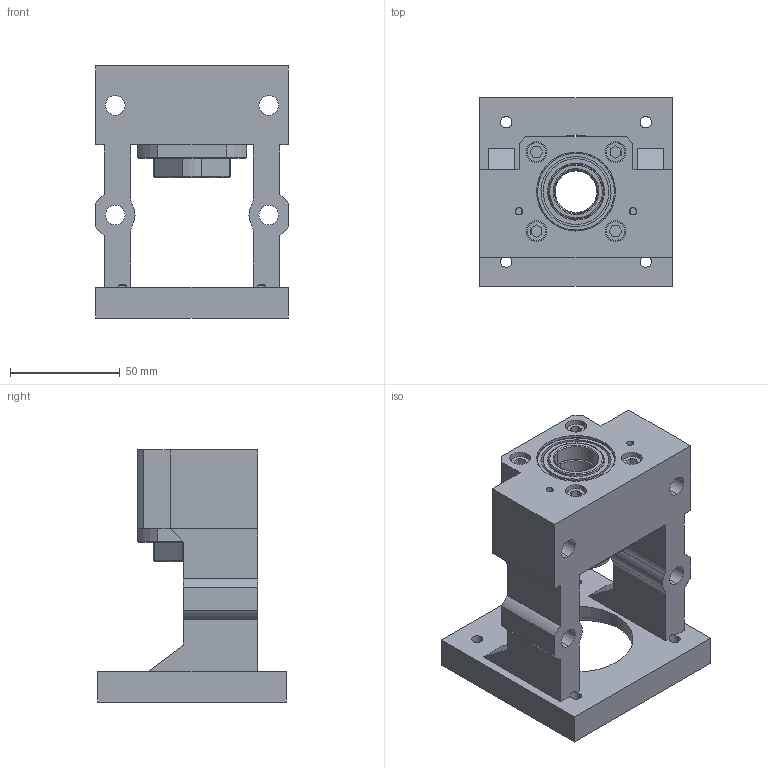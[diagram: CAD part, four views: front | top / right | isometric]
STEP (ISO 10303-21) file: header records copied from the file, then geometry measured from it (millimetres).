
FILE_DESCRIPTION (( 'STEP AP203' ), '1' );
FILE_NAME ('MBCA20-E²Õ¦X¥ó.STEP', '2025-09-15T03:04:08', ( '' ), ( '' ), 'SwSTEP 2.0', 'SolidWorks 2018', '' );
FILE_SCHEMA (( 'CONFIG_CONTROL_DESIGN' ));
Length unit declared in the file: millimetre
Products named in the file (2): MBCA20-E組合件
Bounding box: 88 x 86 x 115 mm (x, y, z)
Surface area: 65807.1 mm2 (no closed solid volume)
Topology: 0 solids, 15 shells, 241 faces, 638 edges, 417 vertices
Faces by surface type: plane 103, cylinder 100, cone 22, torus 12, bspline 4
Entity records: 8017 total; most frequent: CARTESIAN_POINT 1724, DIRECTION 1345, ORIENTED_EDGE 1175, EDGE_CURVE 638, AXIS2_PLACEMENT_3D 510, VERTEX_POINT 417, VECTOR 325, LINE 325
